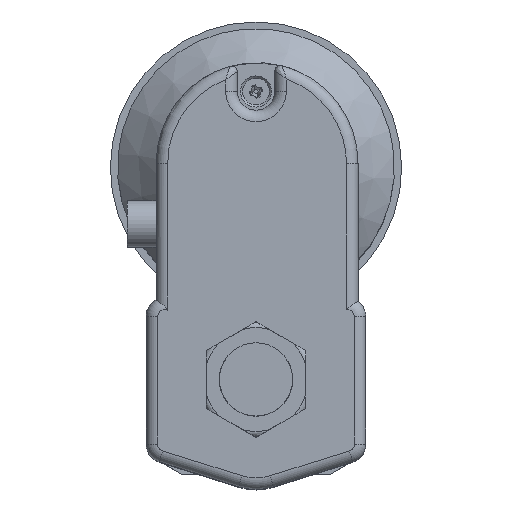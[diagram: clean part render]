
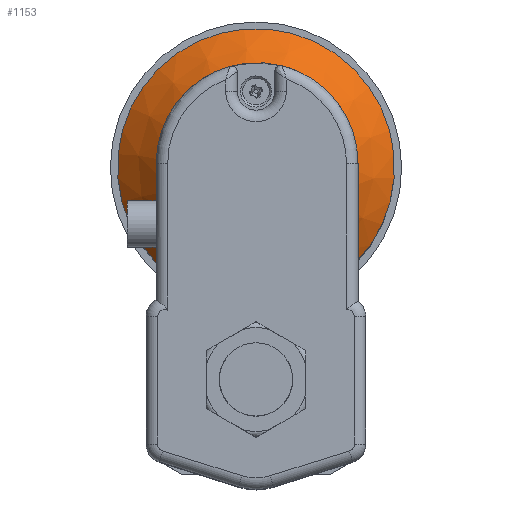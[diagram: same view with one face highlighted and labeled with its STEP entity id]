
A CAD part, top view. The second image highlights one B-rep face of the part: STEP entity #1153.
In plain terms, the highlighted conical face has half-angle 45 degrees and reference radius 48 mm.
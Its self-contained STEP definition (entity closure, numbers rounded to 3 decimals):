
#1153 = ADVANCED_FACE ( 'NONE', ( #1594, #1591 ), #1592, .T. ) ;
#1180 = EDGE_CURVE ( 'NONE', #4376, #4385, #1641, .T. ) ;
#1181 = EDGE_CURVE ( 'NONE', #6750, #6750, #1643, .T. ) ;
#1591 = FACE_OUTER_BOUND ( 'NONE', #1905, .T. ) ;
#1592 = CONICAL_SURFACE ( 'NONE', #9172, 48., 0.785 ) ;
#1594 = FACE_BOUND ( 'NONE', #1965, .T. ) ;
#1641 = CIRCLE ( 'NONE', #9170, 48. ) ;
#1643 = CIRCLE ( 'NONE', #9181, 34. ) ;
#1905 = EDGE_LOOP ( 'NONE', ( #3320, #3321 ) ) ;
#1965 = EDGE_LOOP ( 'NONE', ( #3319 ) ) ;
#2273 = EDGE_CURVE ( 'NONE', #4385, #4376, #8533, .T. ) ;
#3319 = ORIENTED_EDGE ( 'NONE', *, *, #1181, .F. ) ;
#3320 = ORIENTED_EDGE ( 'NONE', *, *, #1180, .T. ) ;
#3321 = ORIENTED_EDGE ( 'NONE', *, *, #2273, .T. ) ;
#4376 = VERTEX_POINT ( 'NONE', #6340 ) ;
#4385 = VERTEX_POINT ( 'NONE', #6349 ) ;
#6340 = CARTESIAN_POINT ( 'NONE',  ( 27.908, 34.847, 53.5 ) ) ;
#6349 = CARTESIAN_POINT ( 'NONE',  ( -27.908, 34.847, 53.5 ) ) ;
#6750 = VERTEX_POINT ( 'NONE', #6759 ) ;
#6759 = CARTESIAN_POINT ( 'NONE',  ( 0., 39.9, 67.5 ) ) ;
#7488 = CARTESIAN_POINT ( 'NONE',  ( -27.908, 34.847, 53.5 ) ) ;
#7494 = CARTESIAN_POINT ( 'NONE',  ( -26.826, 34.768, 54.065 ) ) ;
#7495 = CARTESIAN_POINT ( 'NONE',  ( -25.733, 34.688, 54.609 ) ) ;
#7496 = CARTESIAN_POINT ( 'NONE',  ( -23.531, 34.53, 55.644 ) ) ;
#7497 = CARTESIAN_POINT ( 'NONE',  ( -22.421, 34.452, 56.137 ) ) ;
#7498 = CARTESIAN_POINT ( 'NONE',  ( -19.06, 34.223, 57.53 ) ) ;
#7499 = CARTESIAN_POINT ( 'NONE',  ( -16.779, 34.077, 58.344 ) ) ;
#7500 = CARTESIAN_POINT ( 'NONE',  ( -13.28, 33.887, 59.356 ) ) ;
#7501 = CARTESIAN_POINT ( 'NONE',  ( -12.101, 33.829, 59.657 ) ) ;
#7502 = CARTESIAN_POINT ( 'NONE',  ( -9.715, 33.725, 60.183 ) ) ;
#7503 = CARTESIAN_POINT ( 'NONE',  ( -8.505, 33.679, 60.407 ) ) ;
#7504 = CARTESIAN_POINT ( 'NONE',  ( -6.081, 33.605, 60.767 ) ) ;
#7505 = CARTESIAN_POINT ( 'NONE',  ( -4.863, 33.577, 60.903 ) ) ;
#7506 = CARTESIAN_POINT ( 'NONE',  ( -2.415, 33.538, 61.085 ) ) ;
#7507 = CARTESIAN_POINT ( 'NONE',  ( -1.188, 33.529, 61.13 ) ) ;
#7508 = CARTESIAN_POINT ( 'NONE',  ( 2.477, 33.529, 61.127 ) ) ;
#7509 = CARTESIAN_POINT ( 'NONE',  ( 4.908, 33.569, 60.942 ) ) ;
#7510 = CARTESIAN_POINT ( 'NONE',  ( 8.537, 33.68, 60.402 ) ) ;
#7511 = CARTESIAN_POINT ( 'NONE',  ( 9.746, 33.726, 60.177 ) ) ;
#7512 = CARTESIAN_POINT ( 'NONE',  ( 12.13, 33.83, 59.65 ) ) ;
#7513 = CARTESIAN_POINT ( 'NONE',  ( 13.307, 33.888, 59.348 ) ) ;
#7514 = CARTESIAN_POINT ( 'NONE',  ( 16.801, 34.078, 58.337 ) ) ;
#7515 = CARTESIAN_POINT ( 'NONE',  ( 19.078, 34.224, 57.523 ) ) ;
#7516 = CARTESIAN_POINT ( 'NONE',  ( 23.55, 34.529, 55.668 ) ) ;
#7517 = CARTESIAN_POINT ( 'NONE',  ( 25.745, 34.688, 54.629 ) ) ;
#7518 = CARTESIAN_POINT ( 'NONE',  ( 27.908, 34.847, 53.5 ) ) ;
#8376 = DIRECTION ( 'NONE',  ( 0., 0., -1. ) ) ;
#8377 = DIRECTION ( 'NONE',  ( 0., 1., 0. ) ) ;
#8388 = CARTESIAN_POINT ( 'NONE',  ( 0., 73.9, 53.5 ) ) ;
#8389 = DIRECTION ( 'NONE',  ( 0., 0., 1. ) ) ;
#8390 = DIRECTION ( 'NONE',  ( 0., -1., 0. ) ) ;
#8412 = DIRECTION ( 'NONE',  ( 0., 0., 1. ) ) ;
#8413 = DIRECTION ( 'NONE',  ( 0., -1., 0. ) ) ;
#8419 = CARTESIAN_POINT ( 'NONE',  ( 0., 73.9, 67.5 ) ) ;
#8425 = CARTESIAN_POINT ( 'NONE',  ( 0., 73.9, 53.5 ) ) ;
#8533 = B_SPLINE_CURVE_WITH_KNOTS ( 'NONE', 3,
 ( #7488, #7494, #7495, #7496, #7497, #7498, #7499, #7500, #7501, #7502, #7503, #7504, #7505, #7506, #7507, #7508, #7509, #7510, #7511, #7512, #7513, #7514, #7515, #7516, #7517, #7518 ),
 .UNSPECIFIED., .F., .F.,
 ( 4, 2, 2, 2, 2, 2, 2, 2, 2, 2, 2, 2, 4 ),
 ( 0., 0.004, 0.007, 0.015, 0.018, 0.022, 0.026, 0.029, 0.037, 0.04, 0.044, 0.051, 0.059 ),
 .UNSPECIFIED. ) ;
#9170 = AXIS2_PLACEMENT_3D ( 'NONE', #8388, #8389, #8390 ) ;
#9172 = AXIS2_PLACEMENT_3D ( 'NONE', #8425, #8376, #8377 ) ;
#9181 = AXIS2_PLACEMENT_3D ( 'NONE', #8419, #8412, #8413 ) ;
